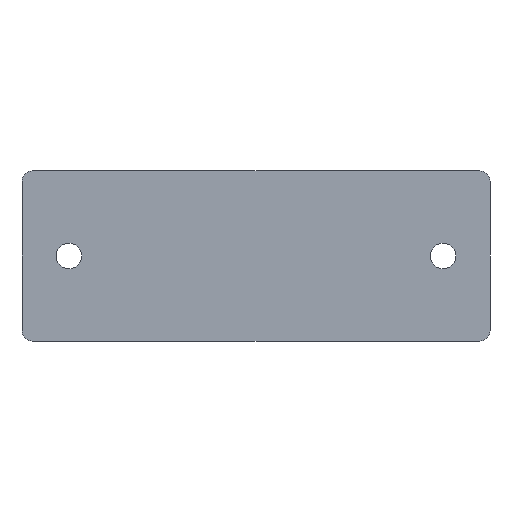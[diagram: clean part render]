
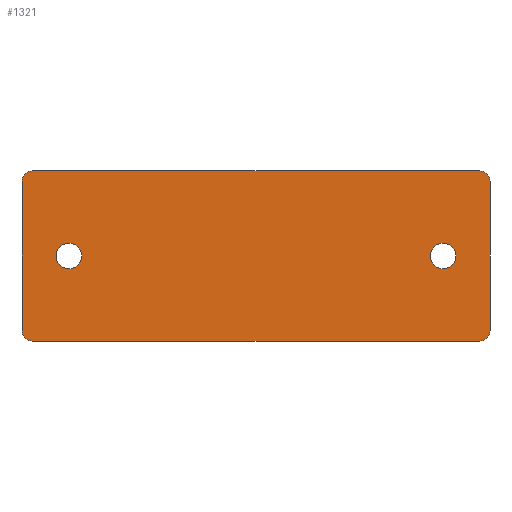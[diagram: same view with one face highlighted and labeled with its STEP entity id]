
A CAD part, front view. The second image highlights one B-rep face of the part: STEP entity #1321.
In plain terms, the highlighted planar face has unit normal (0, -1, 0).
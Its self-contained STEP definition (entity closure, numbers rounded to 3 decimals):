
#11 = DIRECTION ( 'NONE',  ( 0., 0., -1. ) ) ;
#14 = CIRCLE ( 'NONE', #907, 6. ) ;
#16 = EDGE_CURVE ( 'NONE', #886, #93, #364, .T. ) ;
#22 = EDGE_CURVE ( 'NONE', #1204, #503, #935, .T. ) ;
#58 = CARTESIAN_POINT ( 'NONE',  ( 198., -4., -46. ) ) ;
#64 = CARTESIAN_POINT ( 'NONE',  ( 5., -4., -75. ) ) ;
#68 = DIRECTION ( 'NONE',  ( 0., -1., 0. ) ) ;
#71 = EDGE_LOOP ( 'NONE', ( #1317, #577 ) ) ;
#93 = VERTEX_POINT ( 'NONE', #562 ) ;
#107 = LINE ( 'NONE', #578, #279 ) ;
#138 = DIRECTION ( 'NONE',  ( 0., 0., -1. ) ) ;
#139 = CARTESIAN_POINT ( 'NONE',  ( 22., -4., -40. ) ) ;
#142 = DIRECTION ( 'NONE',  ( 0., -1., 0. ) ) ;
#149 = EDGE_CURVE ( 'NONE', #185, #245, #997, .T. ) ;
#157 = DIRECTION ( 'NONE',  ( 0., -1., 0. ) ) ;
#162 = EDGE_CURVE ( 'NONE', #517, #659, #546, .T. ) ;
#169 = DIRECTION ( 'NONE',  ( 0., 0., -1. ) ) ;
#184 = VECTOR ( 'NONE', #951, 1000. ) ;
#185 = VERTEX_POINT ( 'NONE', #58 ) ;
#207 = LINE ( 'NONE', #853, #184 ) ;
#218 = AXIS2_PLACEMENT_3D ( 'NONE', #64, #776, #169 ) ;
#235 = CARTESIAN_POINT ( 'NONE',  ( 22., -4., -40. ) ) ;
#242 = DIRECTION ( 'NONE',  ( 0., 0., -1. ) ) ;
#245 = VERTEX_POINT ( 'NONE', #253 ) ;
#253 = CARTESIAN_POINT ( 'NONE',  ( 198., -4., -34. ) ) ;
#254 = DIRECTION ( 'NONE',  ( 0., -1., 0. ) ) ;
#258 = CARTESIAN_POINT ( 'NONE',  ( 0., -4., -5. ) ) ;
#265 = CARTESIAN_POINT ( 'NONE',  ( 220., -4., -5. ) ) ;
#274 = ORIENTED_EDGE ( 'NONE', *, *, #820, .F. ) ;
#277 = CIRCLE ( 'NONE', #567, 5. ) ;
#279 = VECTOR ( 'NONE', #477, 1000. ) ;
#306 = VECTOR ( 'NONE', #1182, 1000. ) ;
#323 = DIRECTION ( 'NONE',  ( 0., -1., 0. ) ) ;
#329 = DIRECTION ( 'NONE',  ( 0., 0., -1. ) ) ;
#336 = DIRECTION ( 'NONE',  ( 0., 0., -1. ) ) ;
#346 = DIRECTION ( 'NONE',  ( 0., -1., 0. ) ) ;
#364 = LINE ( 'NONE', #1145, #306 ) ;
#393 = EDGE_CURVE ( 'NONE', #778, #1129, #927, .T. ) ;
#396 = CARTESIAN_POINT ( 'NONE',  ( 215., -4., -75. ) ) ;
#432 = CARTESIAN_POINT ( 'NONE',  ( 220., -4., -75. ) ) ;
#448 = CARTESIAN_POINT ( 'NONE',  ( 198., -4., -40. ) ) ;
#456 = EDGE_CURVE ( 'NONE', #886, #1089, #277, .T. ) ;
#477 = DIRECTION ( 'NONE',  ( 0., 0., 1. ) ) ;
#486 = CIRCLE ( 'NONE', #218, 5. ) ;
#503 = VERTEX_POINT ( 'NONE', #1045 ) ;
#517 = VERTEX_POINT ( 'NONE', #743 ) ;
#546 = CIRCLE ( 'NONE', #1063, 5. ) ;
#559 = AXIS2_PLACEMENT_3D ( 'NONE', #965, #157, #336 ) ;
#562 = CARTESIAN_POINT ( 'NONE',  ( 5., -4., -80. ) ) ;
#567 = AXIS2_PLACEMENT_3D ( 'NONE', #396, #694, #1061 ) ;
#577 = ORIENTED_EDGE ( 'NONE', *, *, #149, .F. ) ;
#578 = CARTESIAN_POINT ( 'NONE',  ( 0., -4., 0. ) ) ;
#586 = EDGE_CURVE ( 'NONE', #517, #503, #207, .T. ) ;
#642 = AXIS2_PLACEMENT_3D ( 'NONE', #235, #1159, #11 ) ;
#659 = VERTEX_POINT ( 'NONE', #258 ) ;
#660 = CARTESIAN_POINT ( 'NONE',  ( 5., -4., -5. ) ) ;
#663 = CARTESIAN_POINT ( 'NONE',  ( 215., -4., -5. ) ) ;
#667 = EDGE_CURVE ( 'NONE', #245, #185, #716, .T. ) ;
#683 = AXIS2_PLACEMENT_3D ( 'NONE', #663, #346, #1073 ) ;
#686 = ORIENTED_EDGE ( 'NONE', *, *, #162, .T. ) ;
#689 = VERTEX_POINT ( 'NONE', #1191 ) ;
#694 = DIRECTION ( 'NONE',  ( 0., -1., 0. ) ) ;
#710 = ORIENTED_EDGE ( 'NONE', *, *, #456, .T. ) ;
#716 = CIRCLE ( 'NONE', #1253, 6. ) ;
#743 = CARTESIAN_POINT ( 'NONE',  ( 5., -4., 0. ) ) ;
#776 = DIRECTION ( 'NONE',  ( 0., -1., 0. ) ) ;
#778 = VERTEX_POINT ( 'NONE', #881 ) ;
#781 = EDGE_CURVE ( 'NONE', #689, #93, #486, .T. ) ;
#820 = EDGE_CURVE ( 'NONE', #1129, #778, #14, .T. ) ;
#829 = ORIENTED_EDGE ( 'NONE', *, *, #16, .F. ) ;
#835 = FACE_OUTER_BOUND ( 'NONE', #1302, .T. ) ;
#852 = DIRECTION ( 'NONE',  ( 0., 0., -1. ) ) ;
#853 = CARTESIAN_POINT ( 'NONE',  ( 220., -4., 0. ) ) ;
#856 = AXIS2_PLACEMENT_3D ( 'NONE', #448, #142, #242 ) ;
#881 = CARTESIAN_POINT ( 'NONE',  ( 22., -4., -46. ) ) ;
#882 = CARTESIAN_POINT ( 'NONE',  ( 22., -4., -34. ) ) ;
#883 = ORIENTED_EDGE ( 'NONE', *, *, #781, .T. ) ;
#886 = VERTEX_POINT ( 'NONE', #1278 ) ;
#902 = FACE_BOUND ( 'NONE', #71, .T. ) ;
#907 = AXIS2_PLACEMENT_3D ( 'NONE', #139, #323, #329 ) ;
#912 = EDGE_CURVE ( 'NONE', #689, #659, #107, .T. ) ;
#915 = ORIENTED_EDGE ( 'NONE', *, *, #912, .F. ) ;
#921 = LINE ( 'NONE', #1054, #1139 ) ;
#927 = CIRCLE ( 'NONE', #642, 6. ) ;
#935 = CIRCLE ( 'NONE', #683, 5. ) ;
#951 = DIRECTION ( 'NONE',  ( 1., 0., 0. ) ) ;
#957 = ORIENTED_EDGE ( 'NONE', *, *, #22, .T. ) ;
#962 = ORIENTED_EDGE ( 'NONE', *, *, #1090, .F. ) ;
#965 = CARTESIAN_POINT ( 'NONE',  ( 0., -4., 0. ) ) ;
#973 = PLANE ( 'NONE',  #559 ) ;
#997 = CIRCLE ( 'NONE', #856, 6. ) ;
#1039 = ORIENTED_EDGE ( 'NONE', *, *, #586, .F. ) ;
#1045 = CARTESIAN_POINT ( 'NONE',  ( 215., -4., 0. ) ) ;
#1047 = ORIENTED_EDGE ( 'NONE', *, *, #393, .F. ) ;
#1054 = CARTESIAN_POINT ( 'NONE',  ( 220., -4., -80. ) ) ;
#1061 = DIRECTION ( 'NONE',  ( 0., 0., -1. ) ) ;
#1063 = AXIS2_PLACEMENT_3D ( 'NONE', #660, #68, #852 ) ;
#1073 = DIRECTION ( 'NONE',  ( 0., 0., -1. ) ) ;
#1088 = CARTESIAN_POINT ( 'NONE',  ( 198., -4., -40. ) ) ;
#1089 = VERTEX_POINT ( 'NONE', #432 ) ;
#1090 = EDGE_CURVE ( 'NONE', #1204, #1089, #921, .T. ) ;
#1129 = VERTEX_POINT ( 'NONE', #882 ) ;
#1139 = VECTOR ( 'NONE', #138, 1000. ) ;
#1145 = CARTESIAN_POINT ( 'NONE',  ( 0., -4., -80. ) ) ;
#1159 = DIRECTION ( 'NONE',  ( 0., -1., 0. ) ) ;
#1182 = DIRECTION ( 'NONE',  ( -1., 0., 0. ) ) ;
#1191 = CARTESIAN_POINT ( 'NONE',  ( 0., -4., -75. ) ) ;
#1204 = VERTEX_POINT ( 'NONE', #265 ) ;
#1227 = EDGE_LOOP ( 'NONE', ( #274, #1047 ) ) ;
#1253 = AXIS2_PLACEMENT_3D ( 'NONE', #1088, #254, #1297 ) ;
#1278 = CARTESIAN_POINT ( 'NONE',  ( 215., -4., -80. ) ) ;
#1294 = FACE_BOUND ( 'NONE', #1227, .T. ) ;
#1297 = DIRECTION ( 'NONE',  ( 0., 0., -1. ) ) ;
#1302 = EDGE_LOOP ( 'NONE', ( #829, #710, #962, #957, #1039, #686, #915, #883 ) ) ;
#1317 = ORIENTED_EDGE ( 'NONE', *, *, #667, .F. ) ;
#1321 = ADVANCED_FACE ( 'NONE', ( #902, #1294, #835 ), #973, .T. ) ;
